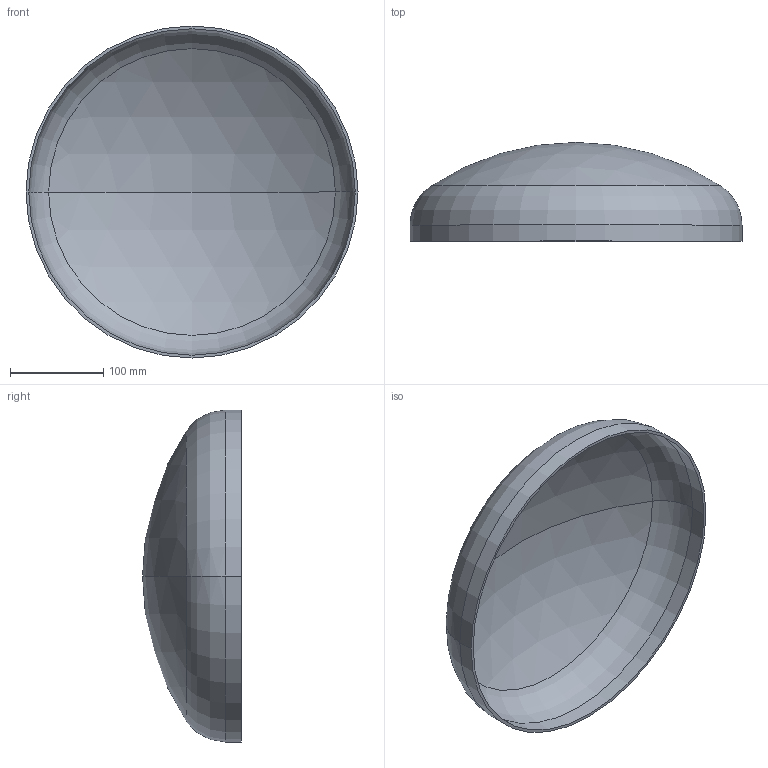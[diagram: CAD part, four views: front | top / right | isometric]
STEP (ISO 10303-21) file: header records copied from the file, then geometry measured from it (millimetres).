
FILE_DESCRIPTION (( 'STEP AP203' ), '1' );
FILE_NAME ('3D_R365_356x3_173371450.STEP', '2024-07-16T06:48:21', ( '' ), ( '' ), 'SwSTEP 2.0', 'SolidWorks 2024', '' );
FILE_SCHEMA (( 'CONFIG_CONTROL_DESIGN' ));
Length unit declared in the file: millimetre
Products named in the file (1): 3D_R365_356x3_173371450
Bounding box: 356 x 106 x 356 mm (x, y, z)
Volume: 456532.7 mm3; surface area: 307700.8 mm2
Topology: 1 solids, 1 shells, 13 faces, 24 edges, 14 vertices
Faces by surface type: sphere 4, torus 4, cylinder 4, plane 1
Entity records: 407 total; most frequent: DIRECTION 72, CARTESIAN_POINT 52, ORIENTED_EDGE 48, AXIS2_PLACEMENT_3D 34, EDGE_CURVE 24, CIRCLE 20, EDGE_LOOP 14, VERTEX_POINT 14
